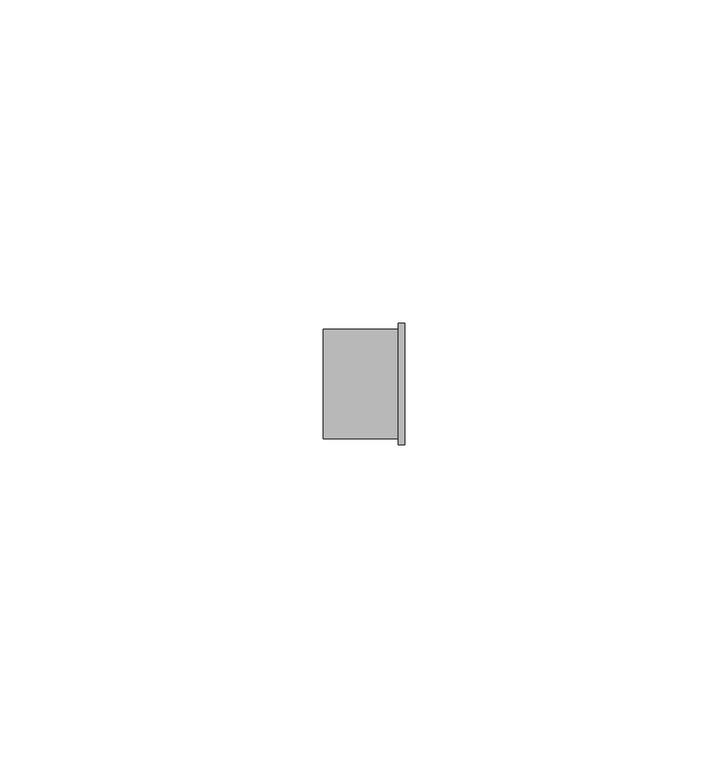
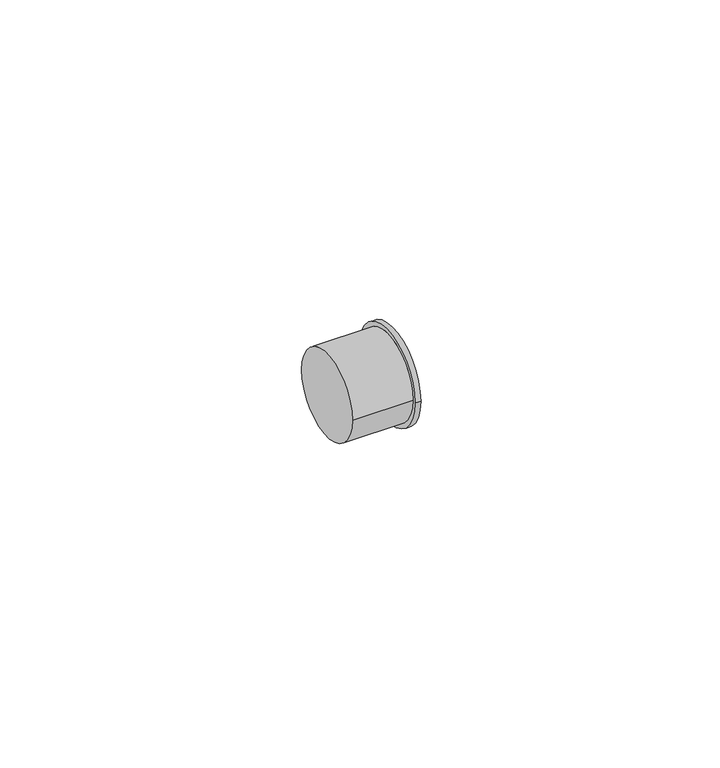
"""IFC4 building model written with IfcOpenShell, lengths in millimetres: pipe fitting geometry, Bucha de redução reta - Soldada - CU : Padrão."""

from ifc_helpers import new_model, si_unit, frame, origin, place, context, project, spatial, circle_curve, source, transform, mapped, element, save
from ifc_brep_helpers import plane_surface, cylinder_surface, advanced_brep


def pipe_fitting_64d0e8e9(model_context):
    return source(origin(), model_context, "Body", "AdvancedBrep", [
        advanced_brep(
        [(0.0, -8.4937, 0.0), (0.0, 8.4937, 0.0), (11.6589, -8.4937, 0.0), (11.6589, 8.4937, 0.0), (12.6589, -9.425, 0.0), (12.6589, 9.425, 0.0), (11.6589, 9.425, 0.0), (11.6589, -9.425, 0.0)],
        [
            (0, 1, circle_curve(frame((0.0, 0.0, 0.0), z_axis=(-1.0, 0.0, 0.0), x_axis=(0.0, 1.0, 0.0)), 8.4937)),
            (1, 0, circle_curve(frame((0.0, 0.0, 0.0), z_axis=(-1.0, 0.0, 0.0), x_axis=(0.0, 1.0, 0.0)), 8.4937)),
            (0, 2),
            (2, 3, circle_curve(frame((11.6589, 0.0, 0.0), z_axis=(-1.0, 0.0, 0.0), x_axis=(0.0, 1.0, 0.0)), 8.4937)),
            (3, 1),
            (3, 2, circle_curve(frame((11.6589, 0.0, 0.0), z_axis=(-1.0, 0.0, 0.0), x_axis=(0.0, 1.0, 0.0)), 8.4937)),
            (4, 5, circle_curve(frame((12.6589, 0.0, 0.0), z_axis=(1.0, 0.0, 0.0), x_axis=(0.0, 1.0, 0.0)), 9.425)),
            (5, 4, circle_curve(frame((12.6589, 0.0, 0.0), z_axis=(1.0, 0.0, 0.0), x_axis=(0.0, 1.0, 0.0)), 9.425)),
            (6, 7, circle_curve(frame((11.6589, 0.0, 0.0), z_axis=(1.0, 0.0, 0.0), x_axis=(0.0, 1.0, 0.0)), 9.425)),
            (7, 4),
            (5, 6),
            (7, 6, circle_curve(frame((11.6589, 0.0, 0.0), z_axis=(1.0, 0.0, 0.0), x_axis=(0.0, 1.0, 0.0)), 9.425)),
        ],
        [
            plane_surface(frame((0.0, 0.0, 0.0), z_axis=(-1.0, 0.0, 0.0), x_axis=(0.0, 0.0, 1.0))),
            cylinder_surface(frame((0.0, 0.0, 0.0), z_axis=(-1.0, 0.0, 0.0), x_axis=(0.0, 1.0, 0.0)), 8.4937),
            plane_surface(frame((12.6589, 0.0, 0.0), z_axis=(1.0, 0.0, 0.0), x_axis=(0.0, 0.0, 1.0))),
            cylinder_surface(frame((11.6589, 0.0, 0.0), z_axis=(-1.0, 0.0, 0.0), x_axis=(0.0, 1.0, 0.0)), 9.425),
            plane_surface(frame((11.6589, 0.0, 0.0), z_axis=(-1.0, 0.0, 0.0), x_axis=(0.0, 0.0, 1.0))),
        ],
        [
            (0, [[1, 2]]),
            (1, [[-1, 3, 4, 5]]),
            (1, [[-2, -5, 6, -3]]),
            (2, [[7, 8]]),
            (3, [[9, 10, -8, 11]]),
            (3, [[12, -11, -7, -10]]),
            (4, [[-9, -12], [-4, -6]]),
        ],
    ),
    ])


if __name__ == "__main__":
    model = new_model("IFC4")
    model_context = context("Model", 3, world=origin())
    ifc_project = project(units=[si_unit("LENGTHUNIT", "METRE", prefix="MILLI")], contexts=[model_context])
    site = spatial("IfcSite", under=ifc_project)
    building = spatial("IfcBuilding", under=site)
    placement = place(None, origin())
    pipe_fitting_shape = pipe_fitting_64d0e8e9(model_context)
    element("IfcPipeFitting", 1, ObjectType="Bucha de redução reta - Soldada - CU : Padrão", at=placement, inside=building, context=model_context, shape_type="MappedRepresentation", body=[
        mapped(pipe_fitting_shape, transform((0.0, 0.0, 0.0), x_axis=(1.0, 0.0, 0.0), y_axis=(0.0, 1.0, 0.0), z_axis=(0.0, 0.0, 1.0))),
    ])
    save(model, "model.ifc")
